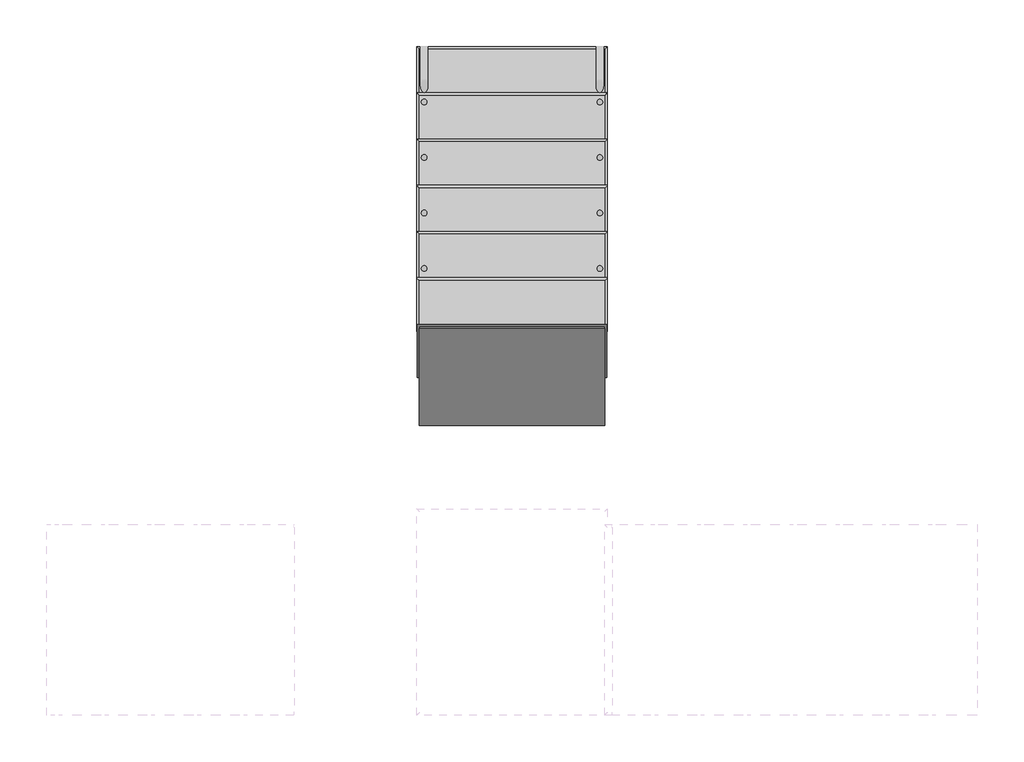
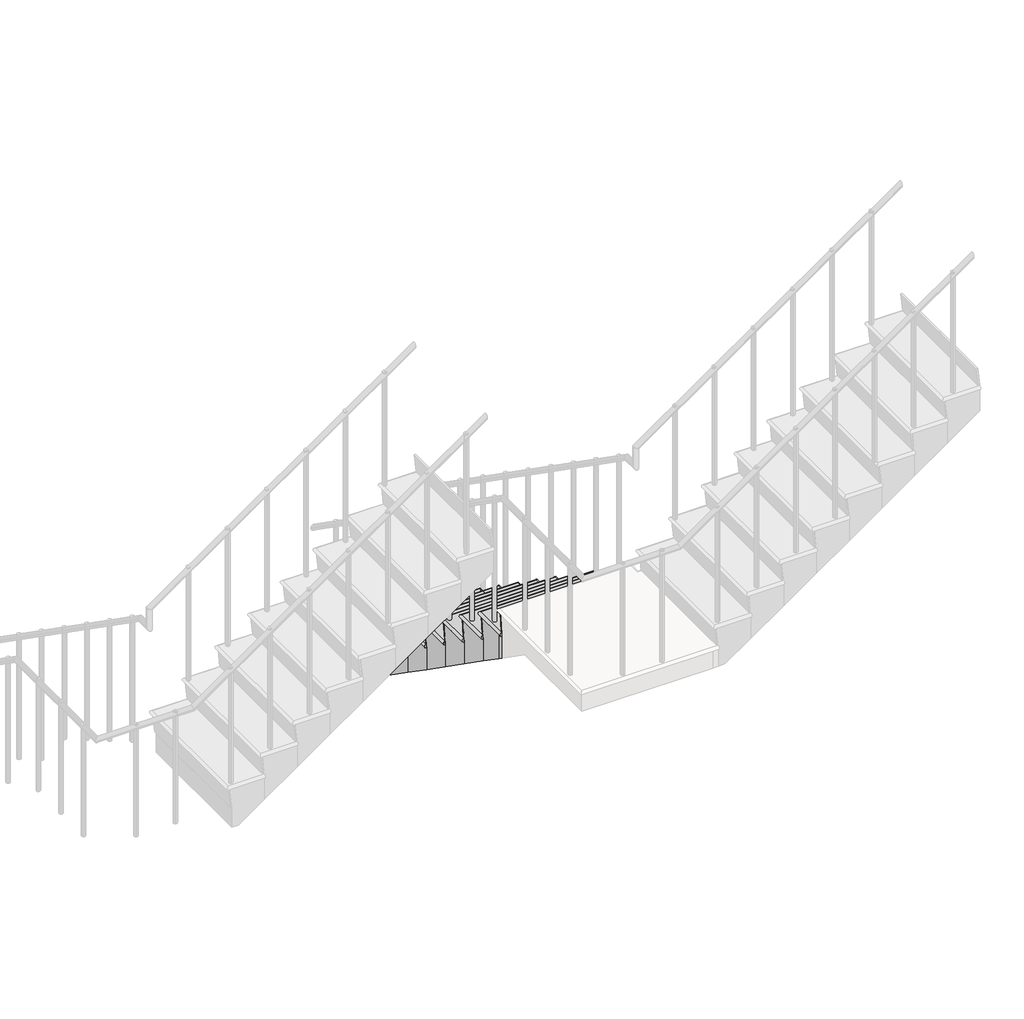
# One storey, part 5 of 6: 1 stair flight.
"""IFC4 building model written with IfcOpenShell, lengths in millimetres."""

from ifc_helpers import new_model, si_unit, frame, origin, place, context, project, spatial, circle_curve, ellipse_curve, faceted_brep, element, save
from ifc_brep_helpers import plane_surface, cylinder_surface, advanced_brep

model = new_model("IFC4")

# Units and contexts
model_context = context("Model", 3, world=origin())
ifc_project = project(units=[si_unit("LENGTHUNIT", "METRE", prefix="MILLI")], contexts=[model_context])

# Site, building, storey
site = spatial("IfcSite", under=ifc_project)
building = spatial("IfcBuilding", under=site)
storey = spatial("IfcBuildingStorey", under=building, Name="樓層 1", Elevation=0.0)

# Stair flight
placement = place(None, origin())
element("IfcStairFlight", 1, ObjectType="RC", at=placement, inside=storey, context=model_context, shape_type="SolidModel", body=[
    faceted_brep([(-2709.5669097, 2976.8888386, 155.0), (-1709.5669097, 2976.8888386, 155.0), (-1709.5669097, 2960.8543559, 0.0), (-2709.5669097, 2960.8543559, 0.0), (-2709.5669097, 2708.7853903, 155.0), (-1709.5669097, 2708.7853903, 155.0), (-1709.5669097, 2708.7853903, 0.0), (-2709.5669097, 2708.7853903, 0.0), (-1709.5669097, 2726.8888386, 330.0), (-2709.5669097, 2726.8888386, 330.0), (-2709.5669097, 2458.7853903, 330.0), (-1709.5669097, 2458.7853903, 330.0), (-1709.5669097, 2458.7853903, 144.4603546), (-1709.5669097, 2665.1573256, 0.0), (-2709.5669097, 2665.1573256, 0.0), (-2709.5669097, 2458.7853903, 144.4603546), (-1709.5669097, 2476.8888386, 505.0), (-2709.5669097, 2476.8888386, 505.0), (-2709.5669097, 2208.7853903, 505.0), (-1709.5669097, 2208.7853903, 505.0), (-1709.5669097, 2208.7853903, 319.4603546), (-2709.5669097, 2208.7853903, 319.4603546), (-1709.5669097, 2226.8888386, 680.0), (-2709.5669097, 2226.8888386, 680.0), (-2709.5669097, 1958.7853903, 680.0), (-1709.5669097, 1958.7853903, 680.0), (-1709.5669097, 1958.7853903, 494.4603546), (-2709.5669097, 1958.7853903, 494.4603546), (-1709.5669097, 1976.8888386, 855.0), (-2709.5669097, 1976.8888386, 855.0), (-2709.5669097, 1708.7853903, 855.0), (-1709.5669097, 1708.7853903, 855.0), (-1709.5669097, 1708.7853903, 669.4603546), (-2709.5669097, 1708.7853903, 669.4603546), (-1709.5669097, 1726.8888386, 1030.0), (-2709.5669097, 1726.8888386, 1030.0), (-2709.5669097, 1458.7853903, 1030.0), (-1709.5669097, 1458.7853903, 1030.0), (-1709.5669097, 1458.7853903, 844.4603546), (-2709.5669097, 1458.7853903, 844.4603546), (-1709.5669097, 1476.8888386, 1205.0), (-2709.5669097, 1476.8888386, 1205.0), (-2709.5669097, 1208.7853903, 1205.0), (-1709.5669097, 1208.7853903, 1205.0), (-1709.5669097, 1208.7853903, 1019.4603546), (-2709.5669097, 1208.7853903, 1019.4603546), (-1709.5669097, 1226.8888386, 1380.0), (-2709.5669097, 1226.8888386, 1380.0), (-2709.5669097, 958.7853903, 1380.0), (-1709.5669097, 958.7853903, 1380.0), (-1709.5669097, 958.7853903, 1194.4603546), (-2709.5669097, 958.7853903, 1194.4603546), (-1709.5669097, 976.8888386, 1555.0), (-2709.5669097, 976.8888386, 1555.0), (-2709.5669097, 708.7853903, 1555.0), (-1709.5669097, 708.7853903, 1555.0), (-1709.5669097, 708.7853903, 1369.4603546), (-2709.5669097, 708.7853903, 1369.4603546), (-1709.5669097, 500.9077212, 1514.974723), (-1709.5669097, 458.7853903, 1544.4603546), (-2709.5669097, 458.7853903, 1544.4603546), (-2709.5669097, 500.9077212, 1514.974723), (-1709.5669097, 458.7853903, 1730.0), (-1709.5669097, 500.9077212, 1730.0), (-1709.5669097, 726.8888386, 1730.0), (-2709.5669097, 726.8888386, 1730.0), (-2709.5669097, 500.9077212, 1730.0), (-2709.5669097, 458.7853903, 1730.0)], [[[0, 1, 2, 3]], [[1, 0, 4, 5]], [[1, 5, 6, 2]], [[4, 0, 3, 7]], [[8, 9, 10, 11]], [[6, 5, 8, 11, 12, 13]], [[4, 7, 14, 15, 10, 9]], [[5, 4, 9, 8]], [[16, 17, 18, 19]], [[16, 19, 20, 12, 11]], [[18, 17, 10, 15, 21]], [[11, 10, 17, 16]], [[22, 23, 24, 25]], [[22, 25, 26, 20, 19]], [[24, 23, 18, 21, 27]], [[19, 18, 23, 22]], [[28, 29, 30, 31]], [[28, 31, 32, 26, 25]], [[30, 29, 24, 27, 33]], [[25, 24, 29, 28]], [[34, 35, 36, 37]], [[34, 37, 38, 32, 31]], [[36, 35, 30, 33, 39]], [[31, 30, 35, 34]], [[40, 41, 42, 43]], [[40, 43, 44, 38, 37]], [[42, 41, 36, 39, 45]], [[37, 36, 41, 40]], [[46, 47, 48, 49]], [[46, 49, 50, 44, 43]], [[48, 47, 42, 45, 51]], [[43, 42, 47, 46]], [[52, 53, 54, 55]], [[52, 55, 56, 50, 49]], [[54, 53, 48, 51, 57]], [[49, 48, 53, 52]], [[2, 6, 13, 14, 7, 3]], [[14, 13, 12, 20, 26, 32, 38, 44, 50, 56, 58, 59, 60, 61, 57, 51, 45, 39, 33, 27, 21, 15]], [[62, 63, 64, 65, 66, 67]], [[63, 62, 59, 58]], [[64, 63, 58, 56, 55]], [[66, 65, 54, 57, 61]], [[67, 66, 61, 60]], [[62, 67, 60, 59]], [[55, 54, 65, 64]]]),
    advanced_brep(
    [(-2709.5669097, 2710.8543559, 175.0), (-2709.5669097, 2708.7853903, 155.0), (-1709.5669097, 2708.7853903, 155.0), (-1709.5669097, 2710.8543559, 175.0), (-1709.5669097, 2985.9077212, 175.0), (-2709.5669097, 2985.9077212, 175.0), (-2709.5669097, 2710.8543559, 155.0), (-2709.5669097, 2985.9077212, 155.0), (-1709.5669097, 2985.9077212, 155.0), (-1709.5669097, 2710.8543559, 155.0), (-2709.5669097, 2710.8543559, 145.0), (-2709.5669097, 2985.9077212, 145.0), (-1709.5669097, 2985.9077212, 145.0), (-1709.5669097, 2710.8543559, 145.0)],
    [
        (0, 1),
        (1, 2),
        (2, 3),
        (3, 0),
        (3, 4),
        (4, 5),
        (5, 0),
        (1, 6),
        (6, 7),
        (7, 8),
        (8, 9),
        (9, 2),
        (9, 3),
        (0, 6),
        (0, 10, circle_curve(frame((-2709.5669097, 2710.8543559, 160.0), z_axis=(0.0, -1.0, 0.0), x_axis=(1.0, 0.0, 0.0)), 15.0)),
        (10, 6),
        (5, 11, ellipse_curve(frame((-2709.5669097, 2985.9077212, 160.0), z_axis=(-0.7071067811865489, -0.7071067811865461, 0.0), x_axis=(0.7071067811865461, -0.7071067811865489, 0.0)), 21.2132034, 15.0)),
        (11, 10),
        (11, 7),
        (4, 12, ellipse_curve(frame((-1709.5669097, 2985.9077212, 160.0), z_axis=(-0.707106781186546, 0.7071067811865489, 0.0), x_axis=(-0.7071067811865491, -0.7071067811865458, 0.0)), 21.2132034, 15.0)),
        (12, 11),
        (12, 8),
        (13, 3, circle_curve(frame((-1709.5669097, 2710.8543559, 160.0), z_axis=(0.0, -1.0, 0.0), x_axis=(-1.0, 0.0, 0.0)), 15.0)),
        (9, 13),
        (13, 12),
    ],
    [
        plane_surface(frame((-2709.5669097, 2708.7853903, 155.0), z_axis=(0.0, -0.9946917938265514, 0.10289915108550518), x_axis=(1.0, 0.0, 0.0))),
        plane_surface(frame((-1709.5669097, 3000.9077212, 175.0), z_axis=(0.0, 0.0, 1.0), x_axis=(0.0, 1.0, 0.0))),
        plane_surface(frame((-1709.5669097, 3000.9077212, 155.0), z_axis=(0.0, 0.0, -1.0), x_axis=(0.0, -1.0, 0.0))),
        plane_surface(frame((-1709.5669097, 2710.8543559, 175.0), z_axis=(1.0, 0.0, 0.0), x_axis=(0.0, 0.0, -1.0))),
        plane_surface(frame((-2709.5669097, 2985.9077212, 175.0), z_axis=(-1.0, 0.0, 0.0), x_axis=(0.0, 0.0, -1.0))),
        plane_surface(frame((-2709.5669097, 2710.8543559, 175.0), z_axis=(0.0, -1.0, 0.0), x_axis=(0.0, 0.0, -1.0))),
        cylinder_surface(frame((-2709.5669097, 2710.8543559, 160.0), z_axis=(0.0, -1.0, 0.0), x_axis=(1.0, 0.0, 0.0)), 15.0),
        plane_surface(frame((-2709.5669097, 2710.8543559, 145.0), z_axis=(1.0, 0.0, 0.0), x_axis=(0.0, 1.0, 0.0))),
        cylinder_surface(frame((-2709.5669097, 2985.9077212, 160.0), z_axis=(-1.0, 0.0, 0.0), x_axis=(0.0, -1.0, 0.0)), 15.0),
        plane_surface(frame((-2709.5669097, 2985.9077212, 145.0), z_axis=(0.0, -1.0, 0.0), x_axis=(1.0, 0.0, 0.0))),
        plane_surface(frame((-1709.5669097, 2710.8543559, 175.0), z_axis=(0.0, -1.0, 0.0), x_axis=(0.0, 0.0, -1.0))),
        cylinder_surface(frame((-1709.5669097, 2985.9077212, 160.0), z_axis=(0.0, 1.0, 0.0), x_axis=(-1.0, 0.0, 0.0)), 15.0),
        plane_surface(frame((-1709.5669097, 2985.9077212, 145.0), z_axis=(-1.0, 0.0, 0.0), x_axis=(0.0, -1.0, 0.0))),
    ],
    [
        (0, [[1, 2, 3, 4]]),
        (1, [[-4, 5, 6, 7]]),
        (2, [[-2, 8, 9, 10, 11, 12]]),
        (3, [[-3, -12, 13]]),
        (4, [[-1, 14, -8]]),
        (5, [[15, 16, -14]]),
        (6, [[-15, -7, 17, 18]]),
        (7, [[-18, 19, -9, -16]]),
        (8, [[-17, -6, 20, 21]]),
        (9, [[-21, 22, -10, -19]]),
        (10, [[23, -13, 24]]),
        (11, [[-20, -5, -23, 25]]),
        (12, [[-25, -24, -11, -22]]),
    ],
),
    faceted_brep([(-2709.5669097, 2985.9077212, 145.0), (-2709.5669097, 2970.9077212, 0.0), (-2709.5669097, 2960.8543559, 0.0), (-2709.5669097, 2975.8543559, 145.0), (-1709.5669097, 2985.9077212, 145.0), (-1709.5669097, 2975.8543559, 145.0), (-1709.5669097, 2960.8543559, 0.0), (-1709.5669097, 2970.9077212, 0.0)], [[[0, 1, 2, 3]], [[4, 5, 6, 7]], [[1, 0, 4, 7]], [[2, 1, 7, 6]], [[3, 2, 6, 5]], [[0, 3, 5, 4]]]),
    faceted_brep([(-2709.5669097, 2735.9077212, 320.0), (-2709.5669097, 2720.9077212, 175.0), (-2709.5669097, 2710.8543559, 175.0), (-2709.5669097, 2725.8543559, 320.0), (-1709.5669097, 2735.9077212, 320.0), (-1709.5669097, 2725.8543559, 320.0), (-1709.5669097, 2710.8543559, 175.0), (-1709.5669097, 2720.9077212, 175.0)], [[[0, 1, 2, 3]], [[4, 5, 6, 7]], [[1, 0, 4, 7]], [[2, 1, 7, 6]], [[3, 2, 6, 5]], [[0, 3, 5, 4]]]),
    advanced_brep(
    [(-2709.5669097, 2460.8543559, 350.0), (-1709.5669097, 2460.8543559, 350.0), (-1709.5669097, 2735.9077212, 350.0), (-2709.5669097, 2735.9077212, 350.0), (-1709.5669097, 2458.7853903, 330.0), (-2709.5669097, 2458.7853903, 330.0), (-2709.5669097, 2460.8543559, 330.0), (-2709.5669097, 2735.9077212, 330.0), (-1709.5669097, 2735.9077212, 330.0), (-1709.5669097, 2460.8543559, 330.0), (-2709.5669097, 2460.8543559, 320.0), (-2709.5669097, 2735.9077212, 320.0), (-1709.5669097, 2735.9077212, 320.0), (-1709.5669097, 2460.8543559, 320.0)],
    [
        (0, 1),
        (1, 2),
        (2, 3),
        (3, 0),
        (4, 5),
        (5, 6),
        (6, 7),
        (7, 8),
        (8, 9),
        (9, 4),
        (1, 4),
        (9, 1),
        (5, 0),
        (0, 6),
        (0, 10, circle_curve(frame((-2709.5669097, 2460.8543559, 335.0), z_axis=(0.0, -1.0, 0.0), x_axis=(1.0, 0.0, 0.0)), 15.0)),
        (10, 6),
        (3, 11, ellipse_curve(frame((-2709.5669097, 2735.9077212, 335.0), z_axis=(-0.7071067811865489, -0.7071067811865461, 0.0), x_axis=(0.7071067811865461, -0.7071067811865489, 0.0)), 21.2132034, 15.0)),
        (11, 10),
        (11, 7),
        (2, 12, ellipse_curve(frame((-1709.5669097, 2735.9077212, 335.0), z_axis=(-0.707106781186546, 0.7071067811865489, 0.0), x_axis=(-0.7071067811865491, -0.7071067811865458, 0.0)), 21.2132034, 15.0)),
        (12, 11),
        (12, 8),
        (13, 1, circle_curve(frame((-1709.5669097, 2460.8543559, 335.0), z_axis=(0.0, -1.0, 0.0), x_axis=(-1.0, 0.0, 0.0)), 15.0)),
        (9, 13),
        (13, 12),
    ],
    [
        plane_surface(frame((-1709.5669097, 2750.9077212, 350.0), z_axis=(0.0, 0.0, 1.0), x_axis=(0.0, 1.0, 0.0))),
        plane_surface(frame((-1709.5669097, 2750.9077212, 330.0), z_axis=(0.0, 0.0, -1.0), x_axis=(0.0, -1.0, 0.0))),
        plane_surface(frame((-1709.5669097, 2460.8543559, 350.0), z_axis=(1.0, 0.0, 0.0), x_axis=(0.0, 0.0, -1.0))),
        plane_surface(frame((-2709.5669097, 2735.9077212, 350.0), z_axis=(-1.0, 0.0, 0.0), x_axis=(0.0, 0.0, -1.0))),
        plane_surface(frame((-2709.5669097, 2458.7853903, 330.0), z_axis=(0.0, -0.9946917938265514, 0.10289915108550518), x_axis=(1.0, 0.0, 0.0))),
        plane_surface(frame((-2709.5669097, 2460.8543559, 350.0), z_axis=(0.0, -1.0, 0.0), x_axis=(0.0, 0.0, -1.0))),
        cylinder_surface(frame((-2709.5669097, 2460.8543559, 335.0), z_axis=(0.0, -1.0, 0.0), x_axis=(1.0, 0.0, 0.0)), 15.0),
        plane_surface(frame((-2709.5669097, 2460.8543559, 320.0), z_axis=(1.0, 0.0, 0.0), x_axis=(0.0, 1.0, 0.0))),
        cylinder_surface(frame((-2709.5669097, 2735.9077212, 335.0), z_axis=(-1.0, 0.0, 0.0), x_axis=(0.0, -1.0, 0.0)), 15.0),
        plane_surface(frame((-2709.5669097, 2735.9077212, 320.0), z_axis=(0.0, -1.0, 0.0), x_axis=(1.0, 0.0, 0.0))),
        plane_surface(frame((-1709.5669097, 2460.8543559, 350.0), z_axis=(0.0, -1.0, 0.0), x_axis=(0.0, 0.0, -1.0))),
        cylinder_surface(frame((-1709.5669097, 2735.9077212, 335.0), z_axis=(0.0, 1.0, 0.0), x_axis=(-1.0, 0.0, 0.0)), 15.0),
        plane_surface(frame((-1709.5669097, 2735.9077212, 320.0), z_axis=(-1.0, 0.0, 0.0), x_axis=(0.0, -1.0, 0.0))),
    ],
    [
        (0, [[1, 2, 3, 4]]),
        (1, [[5, 6, 7, 8, 9, 10]]),
        (2, [[11, -10, 12]]),
        (3, [[13, 14, -6]]),
        (4, [[-13, -5, -11, -1]]),
        (5, [[15, 16, -14]]),
        (6, [[-15, -4, 17, 18]]),
        (7, [[-18, 19, -7, -16]]),
        (8, [[-17, -3, 20, 21]]),
        (9, [[-21, 22, -8, -19]]),
        (10, [[23, -12, 24]]),
        (11, [[-20, -2, -23, 25]]),
        (12, [[-25, -24, -9, -22]]),
    ],
),
    faceted_brep([(-2709.5669097, 2485.9077212, 495.0), (-2709.5669097, 2470.9077212, 350.0), (-2709.5669097, 2460.8543559, 350.0), (-2709.5669097, 2475.8543559, 495.0), (-1709.5669097, 2485.9077212, 495.0), (-1709.5669097, 2475.8543559, 495.0), (-1709.5669097, 2460.8543559, 350.0), (-1709.5669097, 2470.9077212, 350.0)], [[[0, 1, 2, 3]], [[4, 5, 6, 7]], [[1, 0, 4, 7]], [[2, 1, 7, 6]], [[3, 2, 6, 5]], [[0, 3, 5, 4]]]),
    advanced_brep(
    [(-2709.5669097, 2210.8543559, 525.0), (-1709.5669097, 2210.8543559, 525.0), (-1709.5669097, 2485.9077212, 525.0), (-2709.5669097, 2485.9077212, 525.0), (-1709.5669097, 2208.7853903, 505.0), (-2709.5669097, 2208.7853903, 505.0), (-2709.5669097, 2210.8543559, 505.0), (-2709.5669097, 2485.9077212, 505.0), (-1709.5669097, 2485.9077212, 505.0), (-1709.5669097, 2210.8543559, 505.0), (-2709.5669097, 2210.8543559, 495.0), (-2709.5669097, 2485.9077212, 495.0), (-1709.5669097, 2485.9077212, 495.0), (-1709.5669097, 2210.8543559, 495.0)],
    [
        (0, 1),
        (1, 2),
        (2, 3),
        (3, 0),
        (4, 5),
        (5, 6),
        (6, 7),
        (7, 8),
        (8, 9),
        (9, 4),
        (1, 4),
        (9, 1),
        (5, 0),
        (0, 6),
        (0, 10, circle_curve(frame((-2709.5669097, 2210.8543559, 510.0), z_axis=(0.0, -1.0, 0.0), x_axis=(1.0, 0.0, 0.0)), 15.0)),
        (10, 6),
        (3, 11, ellipse_curve(frame((-2709.5669097, 2485.9077212, 510.0), z_axis=(-0.7071067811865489, -0.7071067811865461, 0.0), x_axis=(0.7071067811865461, -0.7071067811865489, 0.0)), 21.2132034, 15.0)),
        (11, 10),
        (11, 7),
        (2, 12, ellipse_curve(frame((-1709.5669097, 2485.9077212, 510.0), z_axis=(-0.707106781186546, 0.7071067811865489, 0.0), x_axis=(-0.7071067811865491, -0.7071067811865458, 0.0)), 21.2132034, 15.0)),
        (12, 11),
        (12, 8),
        (13, 1, circle_curve(frame((-1709.5669097, 2210.8543559, 510.0), z_axis=(0.0, -1.0, 0.0), x_axis=(-1.0, 0.0, 0.0)), 15.0)),
        (9, 13),
        (13, 12),
    ],
    [
        plane_surface(frame((-1709.5669097, 2500.9077212, 525.0), z_axis=(0.0, 0.0, 1.0), x_axis=(0.0, 1.0, 0.0))),
        plane_surface(frame((-1709.5669097, 2500.9077212, 505.0), z_axis=(0.0, 0.0, -1.0), x_axis=(0.0, -1.0, 0.0))),
        plane_surface(frame((-1709.5669097, 2210.8543559, 525.0), z_axis=(1.0, 0.0, 0.0), x_axis=(0.0, 0.0, -1.0))),
        plane_surface(frame((-2709.5669097, 2485.9077212, 525.0), z_axis=(-1.0, 0.0, 0.0), x_axis=(0.0, 0.0, -1.0))),
        plane_surface(frame((-2709.5669097, 2208.7853903, 505.0), z_axis=(0.0, -0.9946917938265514, 0.10289915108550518), x_axis=(1.0, 0.0, 0.0))),
        plane_surface(frame((-2709.5669097, 2210.8543559, 525.0), z_axis=(0.0, -1.0, 0.0), x_axis=(0.0, 0.0, -1.0))),
        cylinder_surface(frame((-2709.5669097, 2210.8543559, 510.0), z_axis=(0.0, -1.0, 0.0), x_axis=(1.0, 0.0, 0.0)), 15.0),
        plane_surface(frame((-2709.5669097, 2210.8543559, 495.0), z_axis=(1.0, 0.0, 0.0), x_axis=(0.0, 1.0, 0.0))),
        cylinder_surface(frame((-2709.5669097, 2485.9077212, 510.0), z_axis=(-1.0, 0.0, 0.0), x_axis=(0.0, -1.0, 0.0)), 15.0),
        plane_surface(frame((-2709.5669097, 2485.9077212, 495.0), z_axis=(0.0, -1.0, 0.0), x_axis=(1.0, 0.0, 0.0))),
        plane_surface(frame((-1709.5669097, 2210.8543559, 525.0), z_axis=(0.0, -1.0, 0.0), x_axis=(0.0, 0.0, -1.0))),
        cylinder_surface(frame((-1709.5669097, 2485.9077212, 510.0), z_axis=(0.0, 1.0, 0.0), x_axis=(-1.0, 0.0, 0.0)), 15.0),
        plane_surface(frame((-1709.5669097, 2485.9077212, 495.0), z_axis=(-1.0, 0.0, 0.0), x_axis=(0.0, -1.0, 0.0))),
    ],
    [
        (0, [[1, 2, 3, 4]]),
        (1, [[5, 6, 7, 8, 9, 10]]),
        (2, [[11, -10, 12]]),
        (3, [[13, 14, -6]]),
        (4, [[-13, -5, -11, -1]]),
        (5, [[15, 16, -14]]),
        (6, [[-15, -4, 17, 18]]),
        (7, [[-18, 19, -7, -16]]),
        (8, [[-17, -3, 20, 21]]),
        (9, [[-21, 22, -8, -19]]),
        (10, [[23, -12, 24]]),
        (11, [[-20, -2, -23, 25]]),
        (12, [[-25, -24, -9, -22]]),
    ],
),
    faceted_brep([(-2709.5669097, 2235.9077212, 670.0), (-2709.5669097, 2220.9077212, 525.0), (-2709.5669097, 2210.8543559, 525.0), (-2709.5669097, 2225.8543559, 670.0), (-1709.5669097, 2235.9077212, 670.0), (-1709.5669097, 2225.8543559, 670.0), (-1709.5669097, 2210.8543559, 525.0), (-1709.5669097, 2220.9077212, 525.0)], [[[0, 1, 2, 3]], [[4, 5, 6, 7]], [[1, 0, 4, 7]], [[2, 1, 7, 6]], [[3, 2, 6, 5]], [[0, 3, 5, 4]]]),
    advanced_brep(
    [(-2709.5669097, 1960.8543559, 700.0), (-1709.5669097, 1960.8543559, 700.0), (-1709.5669097, 2235.9077212, 700.0), (-2709.5669097, 2235.9077212, 700.0), (-1709.5669097, 1958.7853903, 680.0), (-2709.5669097, 1958.7853903, 680.0), (-2709.5669097, 1960.8543559, 680.0), (-2709.5669097, 2235.9077212, 680.0), (-1709.5669097, 2235.9077212, 680.0), (-1709.5669097, 1960.8543559, 680.0), (-2709.5669097, 1960.8543559, 670.0), (-2709.5669097, 2235.9077212, 670.0), (-1709.5669097, 2235.9077212, 670.0), (-1709.5669097, 1960.8543559, 670.0)],
    [
        (0, 1),
        (1, 2),
        (2, 3),
        (3, 0),
        (4, 5),
        (5, 6),
        (6, 7),
        (7, 8),
        (8, 9),
        (9, 4),
        (1, 4),
        (9, 1),
        (5, 0),
        (0, 6),
        (0, 10, circle_curve(frame((-2709.5669097, 1960.8543559, 685.0), z_axis=(0.0, -1.0, 0.0), x_axis=(1.0, 0.0, 0.0)), 15.0)),
        (10, 6),
        (3, 11, ellipse_curve(frame((-2709.5669097, 2235.9077212, 685.0), z_axis=(-0.7071067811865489, -0.7071067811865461, 0.0), x_axis=(0.7071067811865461, -0.7071067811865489, 0.0)), 21.2132034, 15.0)),
        (11, 10),
        (11, 7),
        (2, 12, ellipse_curve(frame((-1709.5669097, 2235.9077212, 685.0), z_axis=(-0.707106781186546, 0.7071067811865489, 0.0), x_axis=(-0.7071067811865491, -0.7071067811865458, 0.0)), 21.2132034, 15.0)),
        (12, 11),
        (12, 8),
        (13, 1, circle_curve(frame((-1709.5669097, 1960.8543559, 685.0), z_axis=(0.0, -1.0, 0.0), x_axis=(-1.0, 0.0, 0.0)), 15.0)),
        (9, 13),
        (13, 12),
    ],
    [
        plane_surface(frame((-1709.5669097, 2250.9077212, 700.0), z_axis=(0.0, 0.0, 1.0), x_axis=(0.0, 1.0, 0.0))),
        plane_surface(frame((-1709.5669097, 2250.9077212, 680.0), z_axis=(0.0, 0.0, -1.0), x_axis=(0.0, -1.0, 0.0))),
        plane_surface(frame((-1709.5669097, 1960.8543559, 700.0), z_axis=(1.0, 0.0, 0.0), x_axis=(0.0, 0.0, -1.0))),
        plane_surface(frame((-2709.5669097, 2235.9077212, 700.0), z_axis=(-1.0, 0.0, 0.0), x_axis=(0.0, 0.0, -1.0))),
        plane_surface(frame((-2709.5669097, 1958.7853903, 680.0), z_axis=(0.0, -0.9946917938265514, 0.10289915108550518), x_axis=(1.0, 0.0, 0.0))),
        plane_surface(frame((-2709.5669097, 1960.8543559, 700.0), z_axis=(0.0, -1.0, 0.0), x_axis=(0.0, 0.0, -1.0))),
        cylinder_surface(frame((-2709.5669097, 1960.8543559, 685.0), z_axis=(0.0, -1.0, 0.0), x_axis=(1.0, 0.0, 0.0)), 15.0),
        plane_surface(frame((-2709.5669097, 1960.8543559, 670.0), z_axis=(1.0, 0.0, 0.0), x_axis=(0.0, 1.0, 0.0))),
        cylinder_surface(frame((-2709.5669097, 2235.9077212, 685.0), z_axis=(-1.0, 0.0, 0.0), x_axis=(0.0, -1.0, 0.0)), 15.0),
        plane_surface(frame((-2709.5669097, 2235.9077212, 670.0), z_axis=(0.0, -1.0, 0.0), x_axis=(1.0, 0.0, 0.0))),
        plane_surface(frame((-1709.5669097, 1960.8543559, 700.0), z_axis=(0.0, -1.0, 0.0), x_axis=(0.0, 0.0, -1.0))),
        cylinder_surface(frame((-1709.5669097, 2235.9077212, 685.0), z_axis=(0.0, 1.0, 0.0), x_axis=(-1.0, 0.0, 0.0)), 15.0),
        plane_surface(frame((-1709.5669097, 2235.9077212, 670.0), z_axis=(-1.0, 0.0, 0.0), x_axis=(0.0, -1.0, 0.0))),
    ],
    [
        (0, [[1, 2, 3, 4]]),
        (1, [[5, 6, 7, 8, 9, 10]]),
        (2, [[11, -10, 12]]),
        (3, [[13, 14, -6]]),
        (4, [[-13, -5, -11, -1]]),
        (5, [[15, 16, -14]]),
        (6, [[-15, -4, 17, 18]]),
        (7, [[-18, 19, -7, -16]]),
        (8, [[-17, -3, 20, 21]]),
        (9, [[-21, 22, -8, -19]]),
        (10, [[23, -12, 24]]),
        (11, [[-20, -2, -23, 25]]),
        (12, [[-25, -24, -9, -22]]),
    ],
),
    faceted_brep([(-2709.5669097, 1985.9077212, 845.0), (-2709.5669097, 1970.9077212, 700.0), (-2709.5669097, 1960.8543559, 700.0), (-2709.5669097, 1975.8543559, 845.0), (-1709.5669097, 1985.9077212, 845.0), (-1709.5669097, 1975.8543559, 845.0), (-1709.5669097, 1960.8543559, 700.0), (-1709.5669097, 1970.9077212, 700.0)], [[[0, 1, 2, 3]], [[4, 5, 6, 7]], [[1, 0, 4, 7]], [[2, 1, 7, 6]], [[3, 2, 6, 5]], [[0, 3, 5, 4]]]),
    advanced_brep(
    [(-2709.5669097, 1710.8543559, 875.0), (-1709.5669097, 1710.8543559, 875.0), (-1709.5669097, 1985.9077212, 875.0), (-2709.5669097, 1985.9077212, 875.0), (-1709.5669097, 1708.7853903, 855.0), (-2709.5669097, 1708.7853903, 855.0), (-2709.5669097, 1710.8543559, 855.0), (-2709.5669097, 1985.9077212, 855.0), (-1709.5669097, 1985.9077212, 855.0), (-1709.5669097, 1710.8543559, 855.0), (-2709.5669097, 1710.8543559, 845.0), (-2709.5669097, 1985.9077212, 845.0), (-1709.5669097, 1985.9077212, 845.0), (-1709.5669097, 1710.8543559, 845.0)],
    [
        (0, 1),
        (1, 2),
        (2, 3),
        (3, 0),
        (4, 5),
        (5, 6),
        (6, 7),
        (7, 8),
        (8, 9),
        (9, 4),
        (1, 4),
        (9, 1),
        (5, 0),
        (0, 6),
        (0, 10, circle_curve(frame((-2709.5669097, 1710.8543559, 860.0), z_axis=(0.0, -1.0, 0.0), x_axis=(1.0, 0.0, 0.0)), 15.0)),
        (10, 6),
        (3, 11, ellipse_curve(frame((-2709.5669097, 1985.9077212, 860.0), z_axis=(-0.7071067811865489, -0.7071067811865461, 0.0), x_axis=(0.7071067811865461, -0.7071067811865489, 0.0)), 21.2132034, 15.0)),
        (11, 10),
        (11, 7),
        (2, 12, ellipse_curve(frame((-1709.5669097, 1985.9077212, 860.0), z_axis=(-0.707106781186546, 0.7071067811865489, 0.0), x_axis=(-0.7071067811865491, -0.7071067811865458, 0.0)), 21.2132034, 15.0)),
        (12, 11),
        (12, 8),
        (13, 1, circle_curve(frame((-1709.5669097, 1710.8543559, 860.0), z_axis=(0.0, -1.0, 0.0), x_axis=(-1.0, 0.0, 0.0)), 15.0)),
        (9, 13),
        (13, 12),
    ],
    [
        plane_surface(frame((-1709.5669097, 2000.9077212, 875.0), z_axis=(0.0, 0.0, 1.0), x_axis=(0.0, 1.0, 0.0))),
        plane_surface(frame((-1709.5669097, 2000.9077212, 855.0), z_axis=(0.0, 0.0, -1.0), x_axis=(0.0, -1.0, 0.0))),
        plane_surface(frame((-1709.5669097, 1710.8543559, 875.0), z_axis=(1.0, 0.0, 0.0), x_axis=(0.0, 0.0, -1.0))),
        plane_surface(frame((-2709.5669097, 1985.9077212, 875.0), z_axis=(-1.0, 0.0, 0.0), x_axis=(0.0, 0.0, -1.0))),
        plane_surface(frame((-2709.5669097, 1708.7853903, 855.0), z_axis=(0.0, -0.9946917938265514, 0.10289915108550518), x_axis=(1.0, 0.0, 0.0))),
        plane_surface(frame((-2709.5669097, 1710.8543559, 875.0), z_axis=(0.0, -1.0, 0.0), x_axis=(0.0, 0.0, -1.0))),
        cylinder_surface(frame((-2709.5669097, 1710.8543559, 860.0), z_axis=(0.0, -1.0, 0.0), x_axis=(1.0, 0.0, 0.0)), 15.0),
        plane_surface(frame((-2709.5669097, 1710.8543559, 845.0), z_axis=(1.0, 0.0, 0.0), x_axis=(0.0, 1.0, 0.0))),
        cylinder_surface(frame((-2709.5669097, 1985.9077212, 860.0), z_axis=(-1.0, 0.0, 0.0), x_axis=(0.0, -1.0, 0.0)), 15.0),
        plane_surface(frame((-2709.5669097, 1985.9077212, 845.0), z_axis=(0.0, -1.0, 0.0), x_axis=(1.0, 0.0, 0.0))),
        plane_surface(frame((-1709.5669097, 1710.8543559, 875.0), z_axis=(0.0, -1.0, 0.0), x_axis=(0.0, 0.0, -1.0))),
        cylinder_surface(frame((-1709.5669097, 1985.9077212, 860.0), z_axis=(0.0, 1.0, 0.0), x_axis=(-1.0, 0.0, 0.0)), 15.0),
        plane_surface(frame((-1709.5669097, 1985.9077212, 845.0), z_axis=(-1.0, 0.0, 0.0), x_axis=(0.0, -1.0, 0.0))),
    ],
    [
        (0, [[1, 2, 3, 4]]),
        (1, [[5, 6, 7, 8, 9, 10]]),
        (2, [[11, -10, 12]]),
        (3, [[13, 14, -6]]),
        (4, [[-13, -5, -11, -1]]),
        (5, [[15, 16, -14]]),
        (6, [[-15, -4, 17, 18]]),
        (7, [[-18, 19, -7, -16]]),
        (8, [[-17, -3, 20, 21]]),
        (9, [[-21, 22, -8, -19]]),
        (10, [[23, -12, 24]]),
        (11, [[-20, -2, -23, 25]]),
        (12, [[-25, -24, -9, -22]]),
    ],
),
    faceted_brep([(-2709.5669097, 1735.9077212, 1020.0), (-2709.5669097, 1720.9077212, 875.0), (-2709.5669097, 1710.8543559, 875.0), (-2709.5669097, 1725.8543559, 1020.0), (-1709.5669097, 1735.9077212, 1020.0), (-1709.5669097, 1725.8543559, 1020.0), (-1709.5669097, 1710.8543559, 875.0), (-1709.5669097, 1720.9077212, 875.0)], [[[0, 1, 2, 3]], [[4, 5, 6, 7]], [[1, 0, 4, 7]], [[2, 1, 7, 6]], [[3, 2, 6, 5]], [[0, 3, 5, 4]]]),
    advanced_brep(
    [(-2709.5669097, 1460.8543559, 1050.0), (-1709.5669097, 1460.8543559, 1050.0), (-1709.5669097, 1735.9077212, 1050.0), (-2709.5669097, 1735.9077212, 1050.0), (-1709.5669097, 1458.7853903, 1030.0), (-2709.5669097, 1458.7853903, 1030.0), (-2709.5669097, 1460.8543559, 1030.0), (-2709.5669097, 1735.9077212, 1030.0), (-1709.5669097, 1735.9077212, 1030.0), (-1709.5669097, 1460.8543559, 1030.0), (-2709.5669097, 1460.8543559, 1020.0), (-2709.5669097, 1735.9077212, 1020.0), (-1709.5669097, 1735.9077212, 1020.0), (-1709.5669097, 1460.8543559, 1020.0)],
    [
        (0, 1),
        (1, 2),
        (2, 3),
        (3, 0),
        (4, 5),
        (5, 6),
        (6, 7),
        (7, 8),
        (8, 9),
        (9, 4),
        (1, 4),
        (9, 1),
        (5, 0),
        (0, 6),
        (0, 10, circle_curve(frame((-2709.5669097, 1460.8543559, 1035.0), z_axis=(0.0, -1.0, 0.0), x_axis=(1.0, 0.0, 0.0)), 15.0)),
        (10, 6),
        (3, 11, ellipse_curve(frame((-2709.5669097, 1735.9077212, 1035.0), z_axis=(-0.7071067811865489, -0.7071067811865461, 0.0), x_axis=(0.7071067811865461, -0.7071067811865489, 0.0)), 21.2132034, 15.0)),
        (11, 10),
        (11, 7),
        (2, 12, ellipse_curve(frame((-1709.5669097, 1735.9077212, 1035.0), z_axis=(-0.707106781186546, 0.7071067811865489, 0.0), x_axis=(-0.7071067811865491, -0.7071067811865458, 0.0)), 21.2132034, 15.0)),
        (12, 11),
        (12, 8),
        (13, 1, circle_curve(frame((-1709.5669097, 1460.8543559, 1035.0), z_axis=(0.0, -1.0, 0.0), x_axis=(-1.0, 0.0, 0.0)), 15.0)),
        (9, 13),
        (13, 12),
    ],
    [
        plane_surface(frame((-1709.5669097, 1750.9077212, 1050.0), z_axis=(0.0, 0.0, 1.0), x_axis=(0.0, 1.0, 0.0))),
        plane_surface(frame((-1709.5669097, 1750.9077212, 1030.0), z_axis=(0.0, 0.0, -1.0), x_axis=(0.0, -1.0, 0.0))),
        plane_surface(frame((-1709.5669097, 1460.8543559, 1050.0), z_axis=(1.0, 0.0, 0.0), x_axis=(0.0, 0.0, -1.0))),
        plane_surface(frame((-2709.5669097, 1735.9077212, 1050.0), z_axis=(-1.0, 0.0, 0.0), x_axis=(0.0, 0.0, -1.0))),
        plane_surface(frame((-2709.5669097, 1458.7853903, 1030.0), z_axis=(0.0, -0.9946917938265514, 0.10289915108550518), x_axis=(1.0, 0.0, 0.0))),
        plane_surface(frame((-2709.5669097, 1460.8543559, 1050.0), z_axis=(0.0, -1.0, 0.0), x_axis=(0.0, 0.0, -1.0))),
        cylinder_surface(frame((-2709.5669097, 1460.8543559, 1035.0), z_axis=(0.0, -1.0, 0.0), x_axis=(1.0, 0.0, 0.0)), 15.0),
        plane_surface(frame((-2709.5669097, 1460.8543559, 1020.0), z_axis=(1.0, 0.0, 0.0), x_axis=(0.0, 1.0, 0.0))),
        cylinder_surface(frame((-2709.5669097, 1735.9077212, 1035.0), z_axis=(-1.0, 0.0, 0.0), x_axis=(0.0, -1.0, 0.0)), 15.0),
        plane_surface(frame((-2709.5669097, 1735.9077212, 1020.0), z_axis=(0.0, -1.0, 0.0), x_axis=(1.0, 0.0, 0.0))),
        plane_surface(frame((-1709.5669097, 1460.8543559, 1050.0), z_axis=(0.0, -1.0, 0.0), x_axis=(0.0, 0.0, -1.0))),
        cylinder_surface(frame((-1709.5669097, 1735.9077212, 1035.0), z_axis=(0.0, 1.0, 0.0), x_axis=(-1.0, 0.0, 0.0)), 15.0),
        plane_surface(frame((-1709.5669097, 1735.9077212, 1020.0), z_axis=(-1.0, 0.0, 0.0), x_axis=(0.0, -1.0, 0.0))),
    ],
    [
        (0, [[1, 2, 3, 4]]),
        (1, [[5, 6, 7, 8, 9, 10]]),
        (2, [[11, -10, 12]]),
        (3, [[13, 14, -6]]),
        (4, [[-13, -5, -11, -1]]),
        (5, [[15, 16, -14]]),
        (6, [[-15, -4, 17, 18]]),
        (7, [[-18, 19, -7, -16]]),
        (8, [[-17, -3, 20, 21]]),
        (9, [[-21, 22, -8, -19]]),
        (10, [[23, -12, 24]]),
        (11, [[-20, -2, -23, 25]]),
        (12, [[-25, -24, -9, -22]]),
    ],
),
    faceted_brep([(-2709.5669097, 1485.9077212, 1195.0), (-2709.5669097, 1470.9077212, 1050.0), (-2709.5669097, 1460.8543559, 1050.0), (-2709.5669097, 1475.8543559, 1195.0), (-1709.5669097, 1485.9077212, 1195.0), (-1709.5669097, 1475.8543559, 1195.0), (-1709.5669097, 1460.8543559, 1050.0), (-1709.5669097, 1470.9077212, 1050.0)], [[[0, 1, 2, 3]], [[4, 5, 6, 7]], [[1, 0, 4, 7]], [[2, 1, 7, 6]], [[3, 2, 6, 5]], [[0, 3, 5, 4]]]),
    advanced_brep(
    [(-2709.5669097, 1210.8543559, 1225.0), (-1709.5669097, 1210.8543559, 1225.0), (-1709.5669097, 1485.9077212, 1225.0), (-2709.5669097, 1485.9077212, 1225.0), (-1709.5669097, 1208.7853903, 1205.0), (-2709.5669097, 1208.7853903, 1205.0), (-2709.5669097, 1210.8543559, 1205.0), (-2709.5669097, 1485.9077212, 1205.0), (-1709.5669097, 1485.9077212, 1205.0), (-1709.5669097, 1210.8543559, 1205.0), (-2709.5669097, 1210.8543559, 1195.0), (-2709.5669097, 1485.9077212, 1195.0), (-1709.5669097, 1485.9077212, 1195.0), (-1709.5669097, 1210.8543559, 1195.0)],
    [
        (0, 1),
        (1, 2),
        (2, 3),
        (3, 0),
        (4, 5),
        (5, 6),
        (6, 7),
        (7, 8),
        (8, 9),
        (9, 4),
        (1, 4),
        (9, 1),
        (5, 0),
        (0, 6),
        (0, 10, circle_curve(frame((-2709.5669097, 1210.8543559, 1210.0), z_axis=(0.0, -1.0, 0.0), x_axis=(1.0, 0.0, 0.0)), 15.0)),
        (10, 6),
        (3, 11, ellipse_curve(frame((-2709.5669097, 1485.9077212, 1210.0), z_axis=(-0.7071067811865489, -0.7071067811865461, 0.0), x_axis=(0.7071067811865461, -0.7071067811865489, 0.0)), 21.2132034, 15.0)),
        (11, 10),
        (11, 7),
        (2, 12, ellipse_curve(frame((-1709.5669097, 1485.9077212, 1210.0), z_axis=(-0.707106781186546, 0.7071067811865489, 0.0), x_axis=(-0.7071067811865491, -0.7071067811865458, 0.0)), 21.2132034, 15.0)),
        (12, 11),
        (12, 8),
        (13, 1, circle_curve(frame((-1709.5669097, 1210.8543559, 1210.0), z_axis=(0.0, -1.0, 0.0), x_axis=(-1.0, 0.0, 0.0)), 15.0)),
        (9, 13),
        (13, 12),
    ],
    [
        plane_surface(frame((-1709.5669097, 1500.9077212, 1225.0), z_axis=(0.0, 0.0, 1.0), x_axis=(0.0, 1.0, 0.0))),
        plane_surface(frame((-1709.5669097, 1500.9077212, 1205.0), z_axis=(0.0, 0.0, -1.0), x_axis=(0.0, -1.0, 0.0))),
        plane_surface(frame((-1709.5669097, 1210.8543559, 1225.0), z_axis=(1.0, 0.0, 0.0), x_axis=(0.0, 0.0, -1.0))),
        plane_surface(frame((-2709.5669097, 1485.9077212, 1225.0), z_axis=(-1.0, 0.0, 0.0), x_axis=(0.0, 0.0, -1.0))),
        plane_surface(frame((-2709.5669097, 1208.7853903, 1205.0), z_axis=(0.0, -0.9946917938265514, 0.10289915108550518), x_axis=(1.0, 0.0, 0.0))),
        plane_surface(frame((-2709.5669097, 1210.8543559, 1225.0), z_axis=(0.0, -1.0, 0.0), x_axis=(0.0, 0.0, -1.0))),
        cylinder_surface(frame((-2709.5669097, 1210.8543559, 1210.0), z_axis=(0.0, -1.0, 0.0), x_axis=(1.0, 0.0, 0.0)), 15.0),
        plane_surface(frame((-2709.5669097, 1210.8543559, 1195.0), z_axis=(1.0, 0.0, 0.0), x_axis=(0.0, 1.0, 0.0))),
        cylinder_surface(frame((-2709.5669097, 1485.9077212, 1210.0), z_axis=(-1.0, 0.0, 0.0), x_axis=(0.0, -1.0, 0.0)), 15.0),
        plane_surface(frame((-2709.5669097, 1485.9077212, 1195.0), z_axis=(0.0, -1.0, 0.0), x_axis=(1.0, 0.0, 0.0))),
        plane_surface(frame((-1709.5669097, 1210.8543559, 1225.0), z_axis=(0.0, -1.0, 0.0), x_axis=(0.0, 0.0, -1.0))),
        cylinder_surface(frame((-1709.5669097, 1485.9077212, 1210.0), z_axis=(0.0, 1.0, 0.0), x_axis=(-1.0, 0.0, 0.0)), 15.0),
        plane_surface(frame((-1709.5669097, 1485.9077212, 1195.0), z_axis=(-1.0, 0.0, 0.0), x_axis=(0.0, -1.0, 0.0))),
    ],
    [
        (0, [[1, 2, 3, 4]]),
        (1, [[5, 6, 7, 8, 9, 10]]),
        (2, [[11, -10, 12]]),
        (3, [[13, 14, -6]]),
        (4, [[-13, -5, -11, -1]]),
        (5, [[15, 16, -14]]),
        (6, [[-15, -4, 17, 18]]),
        (7, [[-18, 19, -7, -16]]),
        (8, [[-17, -3, 20, 21]]),
        (9, [[-21, 22, -8, -19]]),
        (10, [[23, -12, 24]]),
        (11, [[-20, -2, -23, 25]]),
        (12, [[-25, -24, -9, -22]]),
    ],
),
    faceted_brep([(-2709.5669097, 1235.9077212, 1370.0), (-2709.5669097, 1220.9077212, 1225.0), (-2709.5669097, 1210.8543559, 1225.0), (-2709.5669097, 1225.8543559, 1370.0), (-1709.5669097, 1235.9077212, 1370.0), (-1709.5669097, 1225.8543559, 1370.0), (-1709.5669097, 1210.8543559, 1225.0), (-1709.5669097, 1220.9077212, 1225.0)], [[[0, 1, 2, 3]], [[4, 5, 6, 7]], [[1, 0, 4, 7]], [[2, 1, 7, 6]], [[3, 2, 6, 5]], [[0, 3, 5, 4]]]),
    advanced_brep(
    [(-2709.5669097, 960.8543559, 1400.0), (-1709.5669097, 960.8543559, 1400.0), (-1709.5669097, 1235.9077212, 1400.0), (-2709.5669097, 1235.9077212, 1400.0), (-1709.5669097, 958.7853903, 1380.0), (-2709.5669097, 958.7853903, 1380.0), (-2709.5669097, 960.8543559, 1380.0), (-2709.5669097, 1235.9077212, 1380.0), (-1709.5669097, 1235.9077212, 1380.0), (-1709.5669097, 960.8543559, 1380.0), (-2709.5669097, 960.8543559, 1370.0), (-2709.5669097, 1235.9077212, 1370.0), (-1709.5669097, 1235.9077212, 1370.0), (-1709.5669097, 960.8543559, 1370.0)],
    [
        (0, 1),
        (1, 2),
        (2, 3),
        (3, 0),
        (4, 5),
        (5, 6),
        (6, 7),
        (7, 8),
        (8, 9),
        (9, 4),
        (1, 4),
        (9, 1),
        (5, 0),
        (0, 6),
        (0, 10, circle_curve(frame((-2709.5669097, 960.8543559, 1385.0), z_axis=(0.0, -1.0, 0.0), x_axis=(1.0, 0.0, 0.0)), 15.0)),
        (10, 6),
        (3, 11, ellipse_curve(frame((-2709.5669097, 1235.9077212, 1385.0), z_axis=(-0.7071067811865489, -0.7071067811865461, 0.0), x_axis=(0.7071067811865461, -0.7071067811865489, 0.0)), 21.2132034, 15.0)),
        (11, 10),
        (11, 7),
        (2, 12, ellipse_curve(frame((-1709.5669097, 1235.9077212, 1385.0), z_axis=(-0.707106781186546, 0.7071067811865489, 0.0), x_axis=(-0.7071067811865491, -0.7071067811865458, 0.0)), 21.2132034, 15.0)),
        (12, 11),
        (12, 8),
        (13, 1, circle_curve(frame((-1709.5669097, 960.8543559, 1385.0), z_axis=(0.0, -1.0, 0.0), x_axis=(-1.0, 0.0, 0.0)), 15.0)),
        (9, 13),
        (13, 12),
    ],
    [
        plane_surface(frame((-1709.5669097, 1250.9077212, 1400.0), z_axis=(0.0, 0.0, 1.0), x_axis=(0.0, 1.0, 0.0))),
        plane_surface(frame((-1709.5669097, 1250.9077212, 1380.0), z_axis=(0.0, 0.0, -1.0), x_axis=(0.0, -1.0, 0.0))),
        plane_surface(frame((-1709.5669097, 960.8543559, 1400.0), z_axis=(1.0, 0.0, 0.0), x_axis=(0.0, 0.0, -1.0))),
        plane_surface(frame((-2709.5669097, 1235.9077212, 1400.0), z_axis=(-1.0, 0.0, 0.0), x_axis=(0.0, 0.0, -1.0))),
        plane_surface(frame((-2709.5669097, 958.7853903, 1380.0), z_axis=(0.0, -0.9946917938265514, 0.10289915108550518), x_axis=(1.0, 0.0, 0.0))),
        plane_surface(frame((-2709.5669097, 960.8543559, 1400.0), z_axis=(0.0, -1.0, 0.0), x_axis=(0.0, 0.0, -1.0))),
        cylinder_surface(frame((-2709.5669097, 960.8543559, 1385.0), z_axis=(0.0, -1.0, 0.0), x_axis=(1.0, 0.0, 0.0)), 15.0),
        plane_surface(frame((-2709.5669097, 960.8543559, 1370.0), z_axis=(1.0, 0.0, 0.0), x_axis=(0.0, 1.0, 0.0))),
        cylinder_surface(frame((-2709.5669097, 1235.9077212, 1385.0), z_axis=(-1.0, 0.0, 0.0), x_axis=(0.0, -1.0, 0.0)), 15.0),
        plane_surface(frame((-2709.5669097, 1235.9077212, 1370.0), z_axis=(0.0, -1.0, 0.0), x_axis=(1.0, 0.0, 0.0))),
        plane_surface(frame((-1709.5669097, 960.8543559, 1400.0), z_axis=(0.0, -1.0, 0.0), x_axis=(0.0, 0.0, -1.0))),
        cylinder_surface(frame((-1709.5669097, 1235.9077212, 1385.0), z_axis=(0.0, 1.0, 0.0), x_axis=(-1.0, 0.0, 0.0)), 15.0),
        plane_surface(frame((-1709.5669097, 1235.9077212, 1370.0), z_axis=(-1.0, 0.0, 0.0), x_axis=(0.0, -1.0, 0.0))),
    ],
    [
        (0, [[1, 2, 3, 4]]),
        (1, [[5, 6, 7, 8, 9, 10]]),
        (2, [[11, -10, 12]]),
        (3, [[13, 14, -6]]),
        (4, [[-13, -5, -11, -1]]),
        (5, [[15, 16, -14]]),
        (6, [[-15, -4, 17, 18]]),
        (7, [[-18, 19, -7, -16]]),
        (8, [[-17, -3, 20, 21]]),
        (9, [[-21, 22, -8, -19]]),
        (10, [[23, -12, 24]]),
        (11, [[-20, -2, -23, 25]]),
        (12, [[-25, -24, -9, -22]]),
    ],
),
    faceted_brep([(-2709.5669097, 985.9077212, 1545.0), (-2709.5669097, 970.9077212, 1400.0), (-2709.5669097, 960.8543559, 1400.0), (-2709.5669097, 975.8543559, 1545.0), (-1709.5669097, 985.9077212, 1545.0), (-1709.5669097, 975.8543559, 1545.0), (-1709.5669097, 960.8543559, 1400.0), (-1709.5669097, 970.9077212, 1400.0)], [[[0, 1, 2, 3]], [[4, 5, 6, 7]], [[1, 0, 4, 7]], [[2, 1, 7, 6]], [[3, 2, 6, 5]], [[0, 3, 5, 4]]]),
    advanced_brep(
    [(-2709.5669097, 710.8543559, 1575.0), (-1709.5669097, 710.8543559, 1575.0), (-1709.5669097, 985.9077212, 1575.0), (-2709.5669097, 985.9077212, 1575.0), (-1709.5669097, 708.7853903, 1555.0), (-2709.5669097, 708.7853903, 1555.0), (-2709.5669097, 710.8543559, 1555.0), (-2709.5669097, 985.9077212, 1555.0), (-1709.5669097, 985.9077212, 1555.0), (-1709.5669097, 710.8543559, 1555.0), (-2709.5669097, 710.8543559, 1545.0), (-2709.5669097, 985.9077212, 1545.0), (-1709.5669097, 985.9077212, 1545.0), (-1709.5669097, 710.8543559, 1545.0)],
    [
        (0, 1),
        (1, 2),
        (2, 3),
        (3, 0),
        (4, 5),
        (5, 6),
        (6, 7),
        (7, 8),
        (8, 9),
        (9, 4),
        (1, 4),
        (9, 1),
        (5, 0),
        (0, 6),
        (0, 10, circle_curve(frame((-2709.5669097, 710.8543559, 1560.0), z_axis=(0.0, -1.0, 0.0), x_axis=(1.0, 0.0, 0.0)), 15.0)),
        (10, 6),
        (3, 11, ellipse_curve(frame((-2709.5669097, 985.9077212, 1560.0), z_axis=(-0.7071067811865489, -0.7071067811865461, 0.0), x_axis=(0.7071067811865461, -0.7071067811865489, 0.0)), 21.2132034, 15.0)),
        (11, 10),
        (11, 7),
        (2, 12, ellipse_curve(frame((-1709.5669097, 985.9077212, 1560.0), z_axis=(-0.707106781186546, 0.7071067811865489, 0.0), x_axis=(-0.7071067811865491, -0.7071067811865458, 0.0)), 21.2132034, 15.0)),
        (12, 11),
        (12, 8),
        (13, 1, circle_curve(frame((-1709.5669097, 710.8543559, 1560.0), z_axis=(0.0, -1.0, 0.0), x_axis=(-1.0, 0.0, 0.0)), 15.0)),
        (9, 13),
        (13, 12),
    ],
    [
        plane_surface(frame((-1709.5669097, 1000.9077212, 1575.0), z_axis=(0.0, 0.0, 1.0), x_axis=(0.0, 1.0, 0.0))),
        plane_surface(frame((-1709.5669097, 1000.9077212, 1555.0), z_axis=(0.0, 0.0, -1.0), x_axis=(0.0, -1.0, 0.0))),
        plane_surface(frame((-1709.5669097, 710.8543559, 1575.0), z_axis=(1.0, 0.0, 0.0), x_axis=(0.0, 0.0, -1.0))),
        plane_surface(frame((-2709.5669097, 985.9077212, 1575.0), z_axis=(-1.0, 0.0, 0.0), x_axis=(0.0, 0.0, -1.0))),
        plane_surface(frame((-2709.5669097, 708.7853903, 1555.0), z_axis=(0.0, -0.9946917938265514, 0.10289915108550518), x_axis=(1.0, 0.0, 0.0))),
        plane_surface(frame((-2709.5669097, 710.8543559, 1575.0), z_axis=(0.0, -1.0, 0.0), x_axis=(0.0, 0.0, -1.0))),
        cylinder_surface(frame((-2709.5669097, 710.8543559, 1560.0), z_axis=(0.0, -1.0, 0.0), x_axis=(1.0, 0.0, 0.0)), 15.0),
        plane_surface(frame((-2709.5669097, 710.8543559, 1545.0), z_axis=(1.0, 0.0, 0.0), x_axis=(0.0, 1.0, 0.0))),
        cylinder_surface(frame((-2709.5669097, 985.9077212, 1560.0), z_axis=(-1.0, 0.0, 0.0), x_axis=(0.0, -1.0, 0.0)), 15.0),
        plane_surface(frame((-2709.5669097, 985.9077212, 1545.0), z_axis=(0.0, -1.0, 0.0), x_axis=(1.0, 0.0, 0.0))),
        plane_surface(frame((-1709.5669097, 710.8543559, 1575.0), z_axis=(0.0, -1.0, 0.0), x_axis=(0.0, 0.0, -1.0))),
        cylinder_surface(frame((-1709.5669097, 985.9077212, 1560.0), z_axis=(0.0, 1.0, 0.0), x_axis=(-1.0, 0.0, 0.0)), 15.0),
        plane_surface(frame((-1709.5669097, 985.9077212, 1545.0), z_axis=(-1.0, 0.0, 0.0), x_axis=(0.0, -1.0, 0.0))),
    ],
    [
        (0, [[1, 2, 3, 4]]),
        (1, [[5, 6, 7, 8, 9, 10]]),
        (2, [[11, -10, 12]]),
        (3, [[13, 14, -6]]),
        (4, [[-13, -5, -11, -1]]),
        (5, [[15, 16, -14]]),
        (6, [[-15, -4, 17, 18]]),
        (7, [[-18, 19, -7, -16]]),
        (8, [[-17, -3, 20, 21]]),
        (9, [[-21, 22, -8, -19]]),
        (10, [[23, -12, 24]]),
        (11, [[-20, -2, -23, 25]]),
        (12, [[-25, -24, -9, -22]]),
    ],
),
    faceted_brep([(-2709.5669097, 485.9077212, 1895.0), (-2709.5669097, 470.9077212, 1750.0), (-2709.5669097, 460.8543559, 1750.0), (-2709.5669097, 475.8543559, 1895.0), (-1709.5669097, 485.9077212, 1895.0), (-1709.5669097, 475.8543559, 1895.0), (-1709.5669097, 460.8543559, 1750.0), (-1709.5669097, 470.9077212, 1750.0)], [[[0, 1, 2, 3]], [[4, 5, 6, 7]], [[1, 0, 4, 7]], [[2, 1, 7, 6]], [[3, 2, 6, 5]], [[0, 3, 5, 4]]]),
    faceted_brep([(-2709.5669097, 735.9077212, 1720.0), (-2709.5669097, 720.9077212, 1575.0), (-2709.5669097, 710.8543559, 1575.0), (-2709.5669097, 725.8543559, 1720.0), (-1709.5669097, 735.9077212, 1720.0), (-1709.5669097, 725.8543559, 1720.0), (-1709.5669097, 710.8543559, 1575.0), (-1709.5669097, 720.9077212, 1575.0)], [[[0, 1, 2, 3]], [[4, 5, 6, 7]], [[1, 0, 4, 7]], [[2, 1, 7, 6]], [[3, 2, 6, 5]], [[0, 3, 5, 4]]]),
    advanced_brep(
    [(-2709.5669097, 460.8543559, 1750.0), (-1709.5669097, 460.8543559, 1750.0), (-1709.5669097, 500.9077212, 1750.0), (-1709.5669097, 735.9077212, 1750.0), (-2709.5669097, 735.9077212, 1750.0), (-2709.5669097, 500.9077212, 1750.0), (-1709.5669097, 458.7853903, 1730.0), (-2709.5669097, 458.7853903, 1730.0), (-2709.5669097, 460.8543559, 1730.0), (-2709.5669097, 500.9077212, 1730.0), (-2709.5669097, 735.9077212, 1730.0), (-1709.5669097, 735.9077212, 1730.0), (-1709.5669097, 500.9077212, 1730.0), (-1709.5669097, 460.8543559, 1730.0), (-2709.5669097, 460.8543559, 1720.0), (-2709.5669097, 735.9077212, 1720.0), (-1709.5669097, 735.9077212, 1720.0), (-1709.5669097, 460.8543559, 1720.0)],
    [
        (0, 1),
        (1, 2),
        (2, 3),
        (3, 4),
        (4, 5),
        (5, 0),
        (6, 7),
        (7, 8),
        (8, 9),
        (9, 10),
        (10, 11),
        (11, 12),
        (12, 13),
        (13, 6),
        (1, 6),
        (13, 1),
        (7, 0),
        (0, 8),
        (0, 14, circle_curve(frame((-2709.5669097, 460.8543559, 1735.0), z_axis=(0.0, -1.0, 0.0), x_axis=(1.0, 0.0, 0.0)), 15.0)),
        (14, 8),
        (4, 15, ellipse_curve(frame((-2709.5669097, 735.9077212, 1735.0), z_axis=(-0.707106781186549, -0.707106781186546, 0.0), x_axis=(0.707106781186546, -0.7071067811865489, 0.0)), 21.2132034, 15.0)),
        (15, 14),
        (15, 10),
        (3, 16, ellipse_curve(frame((-1709.5669097, 735.9077212, 1735.0), z_axis=(-0.707106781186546, 0.7071067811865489, 0.0), x_axis=(-0.7071067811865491, -0.7071067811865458, 0.0)), 21.2132034, 15.0)),
        (16, 15),
        (16, 11),
        (17, 1, circle_curve(frame((-1709.5669097, 460.8543559, 1735.0), z_axis=(0.0, -1.0, 0.0), x_axis=(-1.0, 0.0, 0.0)), 15.0)),
        (13, 17),
        (17, 16),
    ],
    [
        plane_surface(frame((-1709.5669097, 500.9077212, 1750.0), z_axis=(0.0, 0.0, 1.0), x_axis=(0.0, 1.0, 0.0))),
        plane_surface(frame((-1709.5669097, 500.9077212, 1730.0), z_axis=(0.0, 0.0, -1.0), x_axis=(0.0, -1.0, 0.0))),
        plane_surface(frame((-1709.5669097, 460.8543559, 1750.0), z_axis=(1.0, 0.0, 0.0), x_axis=(0.0, 0.0, -1.0))),
        plane_surface(frame((-2709.5669097, 500.9077212, 1750.0), z_axis=(-1.0, 0.0, 0.0), x_axis=(0.0, 0.0, -1.0))),
        plane_surface(frame((-2709.5669097, 458.7853903, 1730.0), z_axis=(0.0, -0.9946917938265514, 0.10289915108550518), x_axis=(1.0, 0.0, 0.0))),
        plane_surface(frame((-2709.5669097, 460.8543559, 1750.0), z_axis=(0.0, -1.0, 0.0), x_axis=(0.0, 0.0, -1.0))),
        cylinder_surface(frame((-2709.5669097, 460.8543559, 1735.0), z_axis=(0.0, -1.0, 0.0), x_axis=(1.0, 0.0, 0.0)), 15.0),
        plane_surface(frame((-2709.5669097, 460.8543559, 1720.0), z_axis=(1.0, 0.0, 0.0), x_axis=(0.0, 1.0, 0.0))),
        cylinder_surface(frame((-2709.5669097, 735.9077212, 1735.0), z_axis=(-1.0, 0.0, 0.0), x_axis=(0.0, -1.0, 0.0)), 15.0),
        plane_surface(frame((-2709.5669097, 735.9077212, 1720.0), z_axis=(0.0, -1.0, 0.0), x_axis=(1.0, 0.0, 0.0))),
        plane_surface(frame((-1709.5669097, 460.8543559, 1750.0), z_axis=(0.0, -1.0, 0.0), x_axis=(0.0, 0.0, -1.0))),
        cylinder_surface(frame((-1709.5669097, 735.9077212, 1735.0), z_axis=(0.0, 1.0, 0.0), x_axis=(-1.0, 0.0, 0.0)), 15.0),
        plane_surface(frame((-1709.5669097, 735.9077212, 1720.0), z_axis=(-1.0, 0.0, 0.0), x_axis=(0.0, -1.0, 0.0))),
    ],
    [
        (0, [[1, 2, 3, 4, 5, 6]]),
        (1, [[7, 8, 9, 10, 11, 12, 13, 14]]),
        (2, [[15, -14, 16]]),
        (3, [[17, 18, -8]]),
        (4, [[-17, -7, -15, -1]]),
        (5, [[19, 20, -18]]),
        (6, [[-19, -6, -5, 21, 22]]),
        (7, [[-22, 23, -10, -9, -20]]),
        (8, [[-21, -4, 24, 25]]),
        (9, [[-25, 26, -11, -23]]),
        (10, [[27, -16, 28]]),
        (11, [[-24, -3, -2, -27, 29]]),
        (12, [[-29, -28, -13, -12, -26]]),
    ],
),
])

save(model, "model.ifc")
